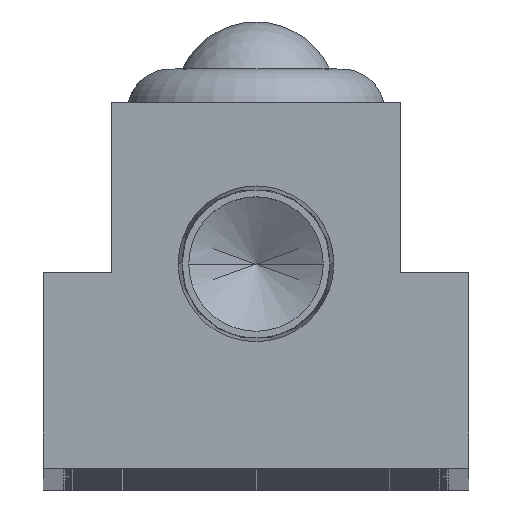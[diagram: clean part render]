
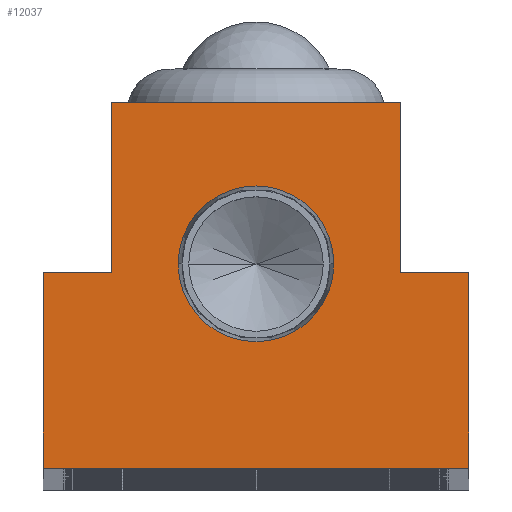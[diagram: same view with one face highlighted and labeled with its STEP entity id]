
A CAD part, top view. The second image highlights one B-rep face of the part: STEP entity #12037.
In plain terms, the highlighted planar face has unit normal (0, 0, 1).
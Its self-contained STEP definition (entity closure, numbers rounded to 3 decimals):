
#234 = VERTEX_POINT ( 'NONE', #7283 ) ;
#730 = CARTESIAN_POINT ( 'NONE',  ( 12.5, 0., 0. ) ) ;
#1072 = CARTESIAN_POINT ( 'NONE',  ( 12.5, 11.5, 0. ) ) ;
#1294 = ORIENTED_EDGE ( 'NONE', *, *, #3541, .T. ) ;
#1628 = DIRECTION ( 'NONE',  ( -1., 0., 0. ) ) ;
#1876 = EDGE_CURVE ( 'NONE', #17609, #4084, #20719, .T. ) ;
#2201 = ORIENTED_EDGE ( 'NONE', *, *, #8961, .T. ) ;
#2321 = CIRCLE ( 'NONE', #6190, 4.574 ) ;
#2520 = CARTESIAN_POINT ( 'NONE',  ( 8.5, 11.5, 0. ) ) ;
#2901 = DIRECTION ( 'NONE',  ( 0., 0., 1. ) ) ;
#3541 = EDGE_CURVE ( 'NONE', #16008, #21952, #22429, .T. ) ;
#3850 = AXIS2_PLACEMENT_3D ( 'NONE', #14238, #2901, #16153 ) ;
#3976 = DIRECTION ( 'NONE',  ( 0., 1., 0. ) ) ;
#4084 = VERTEX_POINT ( 'NONE', #7744 ) ;
#4188 = PLANE ( 'NONE',  #22114 ) ;
#4290 = CARTESIAN_POINT ( 'NONE',  ( 0., 0., 0. ) ) ;
#5416 = VECTOR ( 'NONE', #17311, 1000. ) ;
#5828 = CARTESIAN_POINT ( 'NONE',  ( 4.574, 12., 0. ) ) ;
#6190 = AXIS2_PLACEMENT_3D ( 'NONE', #18332, #6982, #20245 ) ;
#6277 = EDGE_CURVE ( 'NONE', #20179, #21698, #14005, .T. ) ;
#6493 = DIRECTION ( 'NONE',  ( -1., 0., 0. ) ) ;
#6982 = DIRECTION ( 'NONE',  ( 0., 0., 1. ) ) ;
#7283 = CARTESIAN_POINT ( 'NONE',  ( -12.5, 11.5, 0. ) ) ;
#7744 = CARTESIAN_POINT ( 'NONE',  ( -4.574, 12., 0. ) ) ;
#7927 = VECTOR ( 'NONE', #13291, 1000. ) ;
#7967 = CARTESIAN_POINT ( 'NONE',  ( 8.5, 21.5, 0. ) ) ;
#8076 = LINE ( 'NONE', #730, #12515 ) ;
#8088 = DIRECTION ( 'NONE',  ( 0., 0., 1. ) ) ;
#8431 = ORIENTED_EDGE ( 'NONE', *, *, #22301, .T. ) ;
#8961 = EDGE_CURVE ( 'NONE', #234, #15636, #20534, .T. ) ;
#9101 = EDGE_CURVE ( 'NONE', #9378, #13771, #8076, .T. ) ;
#9239 = ORIENTED_EDGE ( 'NONE', *, *, #1876, .F. ) ;
#9378 = VERTEX_POINT ( 'NONE', #16770 ) ;
#10315 = VECTOR ( 'NONE', #6493, 1000. ) ;
#11129 = EDGE_CURVE ( 'NONE', #4084, #17609, #2321, .T. ) ;
#11379 = CARTESIAN_POINT ( 'NONE',  ( -8.5, 21.5, 0. ) ) ;
#11431 = CARTESIAN_POINT ( 'NONE',  ( -12.5, 0., 0. ) ) ;
#11775 = CARTESIAN_POINT ( 'NONE',  ( 8.5, 21.5, 0. ) ) ;
#12037 = ADVANCED_FACE ( 'NONE', ( #13531, #23678 ), #4188, .T. ) ;
#12152 = EDGE_CURVE ( 'NONE', #13771, #16008, #21603, .T. ) ;
#12323 = VECTOR ( 'NONE', #3976, 1000. ) ;
#12515 = VECTOR ( 'NONE', #19643, 1000. ) ;
#12855 = ORIENTED_EDGE ( 'NONE', *, *, #16979, .T. ) ;
#13181 = DIRECTION ( 'NONE',  ( 0., -1., 0. ) ) ;
#13291 = DIRECTION ( 'NONE',  ( 1., 0., 0. ) ) ;
#13384 = ORIENTED_EDGE ( 'NONE', *, *, #13553, .T. ) ;
#13483 = CARTESIAN_POINT ( 'NONE',  ( 8.5, 11.5, 0. ) ) ;
#13490 = CARTESIAN_POINT ( 'NONE',  ( -12.5, 11.5, 0. ) ) ;
#13502 = VECTOR ( 'NONE', #15498, 1000. ) ;
#13531 = FACE_BOUND ( 'NONE', #21767, .T. ) ;
#13553 = EDGE_CURVE ( 'NONE', #21952, #20179, #17963, .T. ) ;
#13771 = VERTEX_POINT ( 'NONE', #1072 ) ;
#14005 = LINE ( 'NONE', #11379, #22953 ) ;
#14238 = CARTESIAN_POINT ( 'NONE',  ( 0., 12., 0. ) ) ;
#14633 = ORIENTED_EDGE ( 'NONE', *, *, #11129, .F. ) ;
#14839 = EDGE_LOOP ( 'NONE', ( #22249, #21390, #1294, #13384, #18757, #8431, #2201, #12855 ) ) ;
#14894 = CARTESIAN_POINT ( 'NONE',  ( -8.5, 11.5, 0. ) ) ;
#15095 = VECTOR ( 'NONE', #1628, 1000. ) ;
#15498 = DIRECTION ( 'NONE',  ( -1., 0., 0. ) ) ;
#15636 = VERTEX_POINT ( 'NONE', #16350 ) ;
#15666 = LINE ( 'NONE', #14894, #15095 ) ;
#16008 = VERTEX_POINT ( 'NONE', #2520 ) ;
#16153 = DIRECTION ( 'NONE',  ( 1., 0., 0. ) ) ;
#16350 = CARTESIAN_POINT ( 'NONE',  ( -12.5, 0., 0. ) ) ;
#16770 = CARTESIAN_POINT ( 'NONE',  ( 12.5, 0., 0. ) ) ;
#16979 = EDGE_CURVE ( 'NONE', #15636, #9378, #23683, .T. ) ;
#17311 = DIRECTION ( 'NONE',  ( 0., -1., 0. ) ) ;
#17609 = VERTEX_POINT ( 'NONE', #5828 ) ;
#17963 = LINE ( 'NONE', #7967, #13502 ) ;
#18081 = CARTESIAN_POINT ( 'NONE',  ( -8.5, 11.5, 0. ) ) ;
#18332 = CARTESIAN_POINT ( 'NONE',  ( 0., 12., 0. ) ) ;
#18712 = CARTESIAN_POINT ( 'NONE',  ( -8.5, 21.5, 0. ) ) ;
#18757 = ORIENTED_EDGE ( 'NONE', *, *, #6277, .T. ) ;
#19643 = DIRECTION ( 'NONE',  ( 0., 1., 0. ) ) ;
#20179 = VERTEX_POINT ( 'NONE', #18712 ) ;
#20245 = DIRECTION ( 'NONE',  ( 1., 0., 0. ) ) ;
#20534 = LINE ( 'NONE', #13490, #5416 ) ;
#20719 = CIRCLE ( 'NONE', #3850, 4.574 ) ;
#21346 = DIRECTION ( 'NONE',  ( 1., 0., 0. ) ) ;
#21390 = ORIENTED_EDGE ( 'NONE', *, *, #12152, .T. ) ;
#21603 = LINE ( 'NONE', #23693, #10315 ) ;
#21698 = VERTEX_POINT ( 'NONE', #18081 ) ;
#21767 = EDGE_LOOP ( 'NONE', ( #9239, #14633 ) ) ;
#21952 = VERTEX_POINT ( 'NONE', #11775 ) ;
#22114 = AXIS2_PLACEMENT_3D ( 'NONE', #4290, #8088, #21346 ) ;
#22249 = ORIENTED_EDGE ( 'NONE', *, *, #9101, .T. ) ;
#22301 = EDGE_CURVE ( 'NONE', #21698, #234, #15666, .T. ) ;
#22429 = LINE ( 'NONE', #13483, #12323 ) ;
#22953 = VECTOR ( 'NONE', #13181, 1000. ) ;
#23678 = FACE_OUTER_BOUND ( 'NONE', #14839, .T. ) ;
#23683 = LINE ( 'NONE', #11431, #7927 ) ;
#23693 = CARTESIAN_POINT ( 'NONE',  ( 12.5, 11.5, 0. ) ) ;
